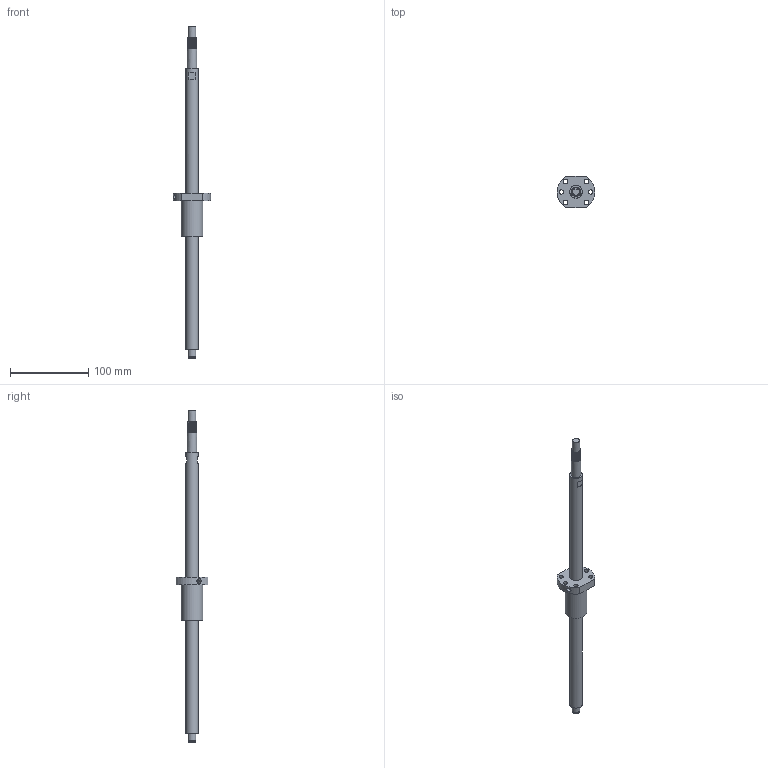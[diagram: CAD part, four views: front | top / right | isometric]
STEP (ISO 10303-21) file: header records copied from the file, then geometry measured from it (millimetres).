
FILE_DESCRIPTION(/* description */ (''),/* implementation_level */ '2;1');
FILE_NAME(/* name */ 'BSG140_asm1.stp',/* time_stamp */ '2017-01-07T08:46:51+08:00',/* author */ (''),/* organization */ (''),/* preprocessor_version */ 'ST-DEVELOPER v15',/* originating_system */ 'SIEMENS PLM Software NX 8.5',/* authorisation */ '');
FILE_SCHEMA (('AUTOMOTIVE_DESIGN { 1 0 10303 214 3 1 1 1 }'));
Length unit declared in the file: millimetre
Products named in the file (3): 01; BSG130; BSG140_asm1
Assembly tree (2 placements, depth 2):
  BSG140_asm1
    BSG130
    01
Bounding box: 48 x 40 x 425 mm (x, y, z)
Volume: 109902.1 mm3; surface area: 33201.1 mm2
Topology: 2 solids, 2 shells, 56 faces, 137 edges, 94 vertices
Faces by surface type: cylinder 28, plane 24, bspline 2, cone 2
Full cylindrical faces by diameter (mm): 5 x1, 5.5 x6, 6 x1, 9.6 x1, 10 x3, 12 x8, 16 x2, 28 x1
Entity records: 2497 total; most frequent: CARTESIAN_POINT 1414, DIRECTION 212, ORIENTED_EDGE 170, AXIS2_PLACEMENT_3D 92, EDGE_LOOP 90, EDGE_CURVE 85, FACE_BOUND 69, VERTEX_POINT 67
